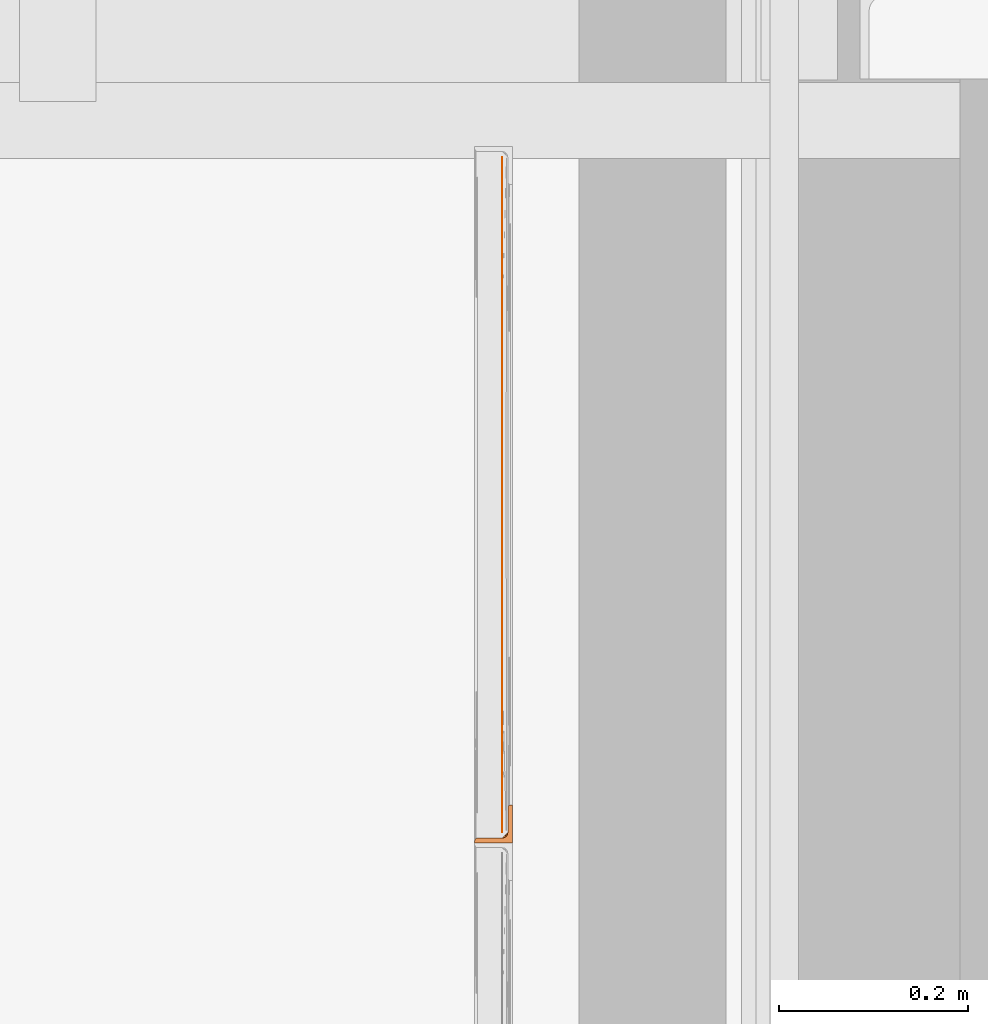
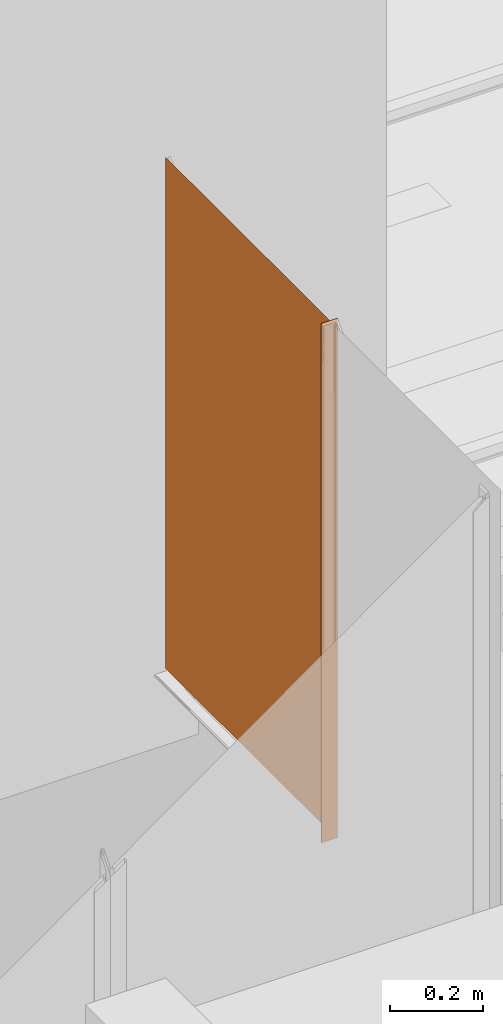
# One storey, part 227 of 230: 2 proxies.
"""IFC4X3_ADD2 building model written with IfcOpenShell, lengths in millimetres."""

from ifc_helpers import new_model, si_unit, direction, frame, origin_with_axes, place, context, subcontext, project, spatial, polygons, source, transform, mapped, material, type_object, type_shapes, element, save


model = new_model("IFC4X3_ADD2")

# Units and contexts
model_context = context("Model", 3, precision=1e-05, world=origin_with_axes(), true_north=direction((0.0, 1.0)))
body_context = subcontext(model_context, "Body", "Model", "MODEL_VIEW")
ifc_project = project(units=[si_unit("LENGTHUNIT", "METRE", prefix="MILLI"), si_unit("AREAUNIT", "SQUARE_METRE"), si_unit("VOLUMEUNIT", "CUBIC_METRE"), si_unit("PLANEANGLEUNIT", "RADIAN"), si_unit("TIMEUNIT", "SECOND"), si_unit("MASSUNIT", "GRAM")], contexts=[model_context])

# Site, building, storey
site_placement = place(None, origin_with_axes())
site = spatial("IfcSite", under=ifc_project, at=site_placement, Name="Site", CompositionType="ELEMENT")
building_placement = place(site_placement, origin_with_axes())
building = spatial("IfcBuilding", under=site, at=building_placement, Name="IFC Building Story")
storey_placement = place(building_placement, origin_with_axes())
storey = spatial("IfcBuildingStorey", under=building, at=storey_placement, Name="ETAGE 00 (0)", Elevation=0.0)

# Proxies
ifc_material = material(Name="<Unnamed>")
building_element_proxy_type_1 = type_object("IfcBuildingElementProxyType", Name="129", PredefinedType="NOTDEFINED")
shared_shape_1 = source(origin_with_axes(), body_context, "Body", "Tessellation", [
    polygons([(38.000038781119, 40.0, 1330.0), (38.0000387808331, 40.0, 40.0), (40.00003878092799, 40.0, 40.0), (40.00003878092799, 40.0, 1330.0), (40.00003878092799, 0.0, 1370.0), (1.96198717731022e-05, 0.0, 1370.0), (1.0037909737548e-05, 1.9999999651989, 1368.00000004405), (0.679951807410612, 4.04174058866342, 1365.95825942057), (1.42999574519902, 4.64110857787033, 1365.35889143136), (3.00003878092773, 5.000000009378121, 1364.99999999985), (29.0000387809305, 5.000000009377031, 1364.99999999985), (31.830863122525, 5.56244914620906, 1364.43755086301), (33.4462204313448, 6.69317965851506, 1363.3068203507), (34.5258912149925, 8.38084043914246, 1361.61915957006), (34.9906236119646, 10.6125554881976, 1359.38744452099), (35.00003878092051, 11.0000000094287, 1358.99999999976), (35.0000387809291, 37.0000000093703, 1332.99999999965), (35.6799512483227, 39.041740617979, 1330.95825939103), (36.429995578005, 39.6411086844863, 1330.35889132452), (33.4462161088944, 6.693178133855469, 6.69317812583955), (34.5258895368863, 8.3808394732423, 8.380839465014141), (32.0128851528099, 7.99419312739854, 685.000000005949), (34.9906233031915, 10.6125497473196, 10.6125497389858), (35.0000387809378, 11.000000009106, 11.0000000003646), (31.8308603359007, 5.562449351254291, 5.562449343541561), (29.0000387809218, 5.00000000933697, 685.0000000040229), (29.0000387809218, 5.000000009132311, 5.000000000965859), (35.0000387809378, 37.0000000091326, 37.0000000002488), (35.0000387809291, 37.0000000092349, 361.000000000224), (35.00003878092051, 37.0000000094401, 1008.99999999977), (35.6799483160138, 39.0417401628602, 39.0417401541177), (36.4299893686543, 39.64110705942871, 39.6411070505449), (0.679947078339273, 4.04174009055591, 4.0417400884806), (1.42998905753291, 4.64110725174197, 4.64110724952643), (4.19765819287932e-05, 2.00000001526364, 343.500000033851), (5.26228031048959e-05, 2.00000003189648, 2.00000002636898), (3.00003878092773, 5.000000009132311, 5.00000000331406), (2.3341486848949e-05, 1.99999732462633, 1026.50000001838), (4.27095963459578e-05, 0.0, 0.0), (40.00003878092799, 0.0, 0.0)], [[[1, 2, 3, 4]], [[16, 17, 18]], [[16, 18, 19]], [[16, 19, 1]], [[16, 1, 4]], [[16, 4, 5]], [[5, 15, 16]], [[5, 14, 15]], [[5, 13, 14]], [[5, 12, 13]], [[5, 11, 12]], [[5, 6, 7]], [[5, 7, 8]], [[5, 8, 9]], [[5, 9, 10]], [[5, 10, 11]], [[20, 21, 22]], [[21, 23, 22]], [[24, 16, 22]], [[22, 23, 24]], [[25, 22, 26]], [[26, 27, 25]], [[25, 20, 22]], [[16, 15, 22]], [[13, 12, 22]], [[22, 14, 13]], [[22, 15, 14]], [[12, 11, 26]], [[26, 22, 12]], [[30, 17, 16]], [[16, 29, 30]], [[16, 24, 29]], [[24, 28, 29]], [[31, 32, 29]], [[29, 28, 31]], [[29, 32, 2]], [[2, 1, 30, 29]], [[1, 19, 30]], [[18, 17, 30]], [[30, 19, 18]], [[33, 34, 35]], [[35, 36, 33]], [[35, 34, 37]], [[37, 10, 38, 35]], [[10, 9, 38]], [[8, 7, 38]], [[38, 9, 8]], [[38, 7, 6]], [[6, 35, 38]], [[6, 39, 35]], [[39, 36, 35]], [[5, 4, 3, 40]], [[6, 5, 40, 39]], [[26, 11, 10]], [[26, 10, 37]], [[37, 27, 26]], [[27, 37, 34]], [[27, 34, 33]], [[27, 33, 36]], [[27, 36, 39]], [[27, 39, 40]], [[40, 25, 27]], [[40, 20, 25]], [[40, 21, 20]], [[40, 23, 21]], [[40, 24, 23]], [[40, 3, 2]], [[40, 2, 32]], [[40, 32, 31]], [[40, 31, 28]], [[40, 28, 24]]]),
])
type_shapes(building_element_proxy_type_1, [shared_shape_1])
proxy_1_placement = place(storey_placement, frame((39439.1894393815, 3712.49996375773, 3990.0), z_axis=(0.0, 0.0, 1.0), x_axis=(1.0, 0.0, 0.0)))
element("IfcBuildingElementProxy", 1, at=proxy_1_placement, inside=storey, type_object=building_element_proxy_type_1, material=ifc_material, Name="68", ObjectType="68", context=body_context, shape_type="MappedRepresentation", body=[
    mapped(shared_shape_1, transform((0.0, 0.0, 0.0))),
])
building_element_proxy_type_2 = type_object("IfcBuildingElementProxyType", Name="131", PredefinedType="NOTDEFINED")
shared_shape_2 = source(origin_with_axes(), body_context, "Body", "Tessellation", [
    polygons([(0.0, 712.999999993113, 0.0), (0.0, 0.0, 0.0), (0.0, 0.0, 1347.99999999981), (0.0, 712.999999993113, 1347.9999999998)], [[[1, 2, 3, 4]]]),
])
type_shapes(building_element_proxy_type_2, [shared_shape_2])
proxy_2_placement = place(storey_placement, frame((39468.1894781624, 3723.49996376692, 4001.00000000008), z_axis=(0.0, 0.0, 1.0), x_axis=(1.0, 0.0, 0.0)))
element("IfcBuildingElementProxy", 2, at=proxy_2_placement, inside=storey, type_object=building_element_proxy_type_2, material=ifc_material, Name="70", ObjectType="70", context=body_context, shape_type="MappedRepresentation", body=[
    mapped(shared_shape_2, transform((0.0, 0.0, 0.0))),
])

save(model, "model.ifc")
